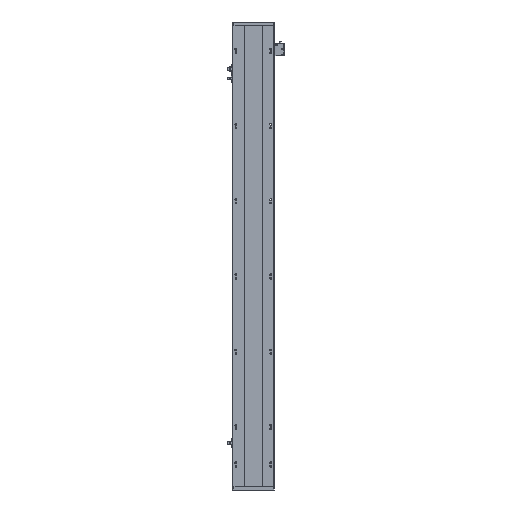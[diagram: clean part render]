
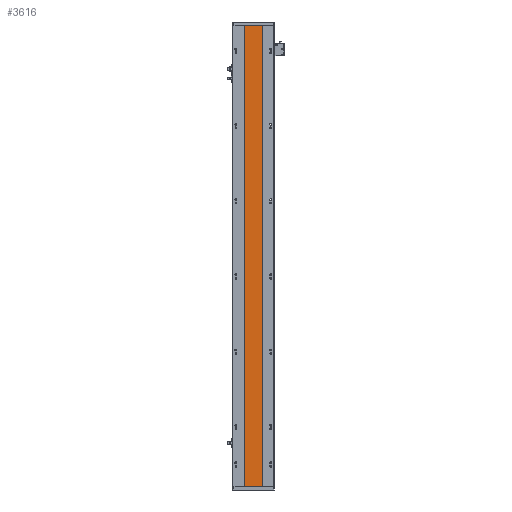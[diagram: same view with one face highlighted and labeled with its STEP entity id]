
A CAD part, front view. The second image highlights one B-rep face of the part: STEP entity #3616.
In plain terms, the highlighted planar face has unit normal (0, -1, 0).
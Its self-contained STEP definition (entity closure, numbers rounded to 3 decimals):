
#140 = CARTESIAN_POINT ( 'NONE',  ( 0., 115.96, 1324. ) ) ;
#267 = EDGE_CURVE ( 'NONE', #21803, #4202, #26407, .T. ) ;
#1137 = DIRECTION ( 'NONE',  ( 0., 1., 0. ) ) ;
#1530 = DIRECTION ( 'NONE',  ( 1., 0., 0. ) ) ;
#1793 = ORIENTED_EDGE ( 'NONE', *, *, #20166, .T. ) ;
#2288 = DIRECTION ( 'NONE',  ( 1., 0., 0. ) ) ;
#3310 = ORIENTED_EDGE ( 'NONE', *, *, #267, .F. ) ;
#3616 = ADVANCED_FACE ( 'NONE', ( #11614 ), #23867, .F. ) ;
#4202 = VERTEX_POINT ( 'NONE', #24331 ) ;
#5639 = EDGE_CURVE ( 'NONE', #10212, #21803, #27268, .T. ) ;
#5940 = ORIENTED_EDGE ( 'NONE', *, *, #24130, .T. ) ;
#8132 = VECTOR ( 'NONE', #2288, 1000. ) ;
#8883 = VERTEX_POINT ( 'NONE', #15368 ) ;
#9262 = ORIENTED_EDGE ( 'NONE', *, *, #5639, .F. ) ;
#9310 = VECTOR ( 'NONE', #16450, 1000. ) ;
#9515 = CARTESIAN_POINT ( 'NONE',  ( 133.07, 115.96, 1324. ) ) ;
#10212 = VERTEX_POINT ( 'NONE', #9515 ) ;
#11366 = LINE ( 'NONE', #20774, #20352 ) ;
#11480 = LINE ( 'NONE', #20446, #26234 ) ;
#11614 = FACE_OUTER_BOUND ( 'NONE', #20772, .T. ) ;
#12349 = AXIS2_PLACEMENT_3D ( 'NONE', #23703, #1137, #14335 ) ;
#14335 = DIRECTION ( 'NONE',  ( -1., 0., 0. ) ) ;
#15368 = CARTESIAN_POINT ( 'NONE',  ( 133.07, 115.96, 0. ) ) ;
#16275 = CARTESIAN_POINT ( 'NONE',  ( 183.063, 115.96, 1324. ) ) ;
#16450 = DIRECTION ( 'NONE',  ( 0., 0., -1. ) ) ;
#20166 = EDGE_CURVE ( 'NONE', #10212, #8883, #11480, .T. ) ;
#20352 = VECTOR ( 'NONE', #1530, 1000. ) ;
#20446 = CARTESIAN_POINT ( 'NONE',  ( 133.07, 115.96, 1324. ) ) ;
#20772 = EDGE_LOOP ( 'NONE', ( #5940, #3310, #9262, #1793 ) ) ;
#20774 = CARTESIAN_POINT ( 'NONE',  ( 0., 115.96, 0. ) ) ;
#21803 = VERTEX_POINT ( 'NONE', #22984 ) ;
#22612 = DIRECTION ( 'NONE',  ( 0., 0., -1. ) ) ;
#22984 = CARTESIAN_POINT ( 'NONE',  ( 183.063, 115.96, 1324. ) ) ;
#23703 = CARTESIAN_POINT ( 'NONE',  ( 0., 115.96, 1324. ) ) ;
#23867 = PLANE ( 'NONE',  #12349 ) ;
#24130 = EDGE_CURVE ( 'NONE', #8883, #4202, #11366, .T. ) ;
#24331 = CARTESIAN_POINT ( 'NONE',  ( 183.063, 115.96, 0. ) ) ;
#26234 = VECTOR ( 'NONE', #22612, 1000. ) ;
#26407 = LINE ( 'NONE', #16275, #9310 ) ;
#27268 = LINE ( 'NONE', #140, #8132 ) ;
